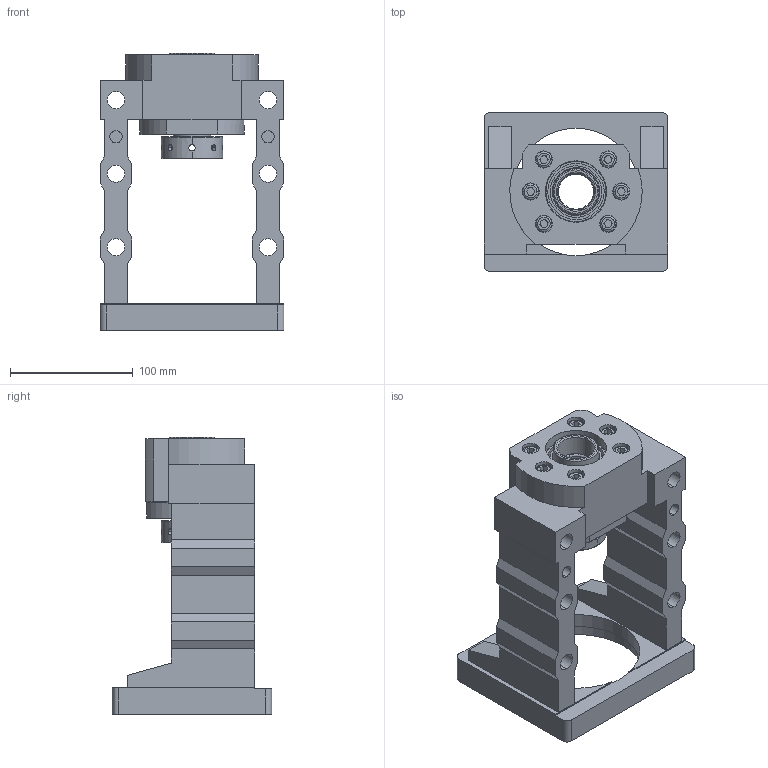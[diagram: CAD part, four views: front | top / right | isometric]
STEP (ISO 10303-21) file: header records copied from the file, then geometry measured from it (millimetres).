
FILE_DESCRIPTION (( 'STEP AP203' ), '1' );
FILE_NAME ('MBCS30W-G²Õ¦X¥ó.STEP', '2022-11-01T06:38:31', ( '' ), ( '' ), 'SwSTEP 2.0', 'SolidWorks 2018', '' );
FILE_SCHEMA (( 'CONFIG_CONTROL_DESIGN' ));
Length unit declared in the file: millimetre
Products named in the file (1): MBCS30W-G組合件
Bounding box: 150 x 130 x 226 mm (x, y, z)
Surface area: 192340.9 mm2 (no closed solid volume)
Topology: 0 solids, 21 shells, 352 faces, 969 edges, 635 vertices
Faces by surface type: plane 134, cylinder 132, cone 62, torus 24
Entity records: 12456 total; most frequent: CARTESIAN_POINT 3379, DIRECTION 1942, ORIENTED_EDGE 1715, EDGE_CURVE 961, AXIS2_PLACEMENT_3D 734, VERTEX_POINT 635, LINE 474, VECTOR 474
